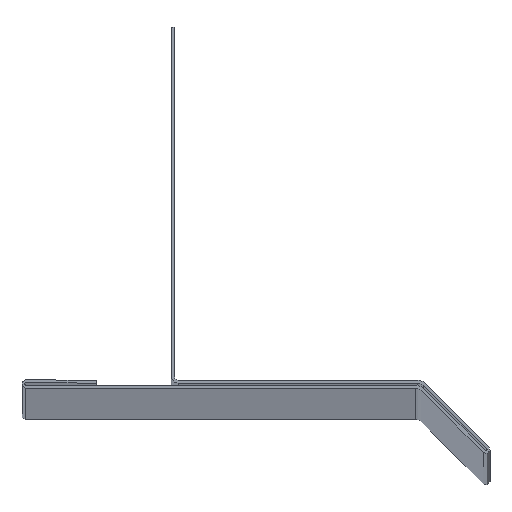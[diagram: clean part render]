
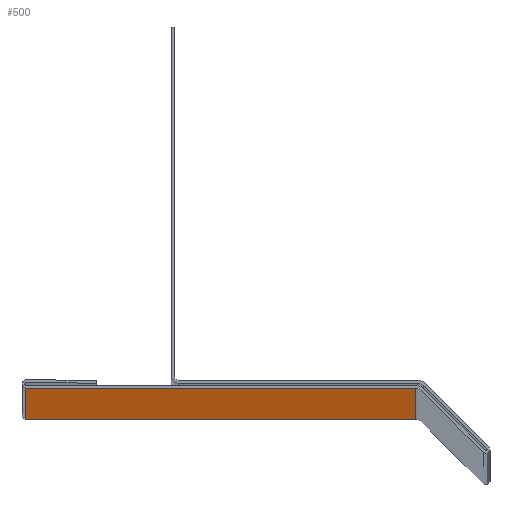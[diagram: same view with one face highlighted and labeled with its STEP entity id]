
A CAD part, top view. The second image highlights one B-rep face of the part: STEP entity #500.
In plain terms, the highlighted planar face has unit normal (0, -1, 0).
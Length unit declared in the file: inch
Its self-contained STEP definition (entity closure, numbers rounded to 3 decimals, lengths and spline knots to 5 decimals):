
#26=PLANE('',#564);
#50=FACE_OUTER_BOUND('',#76,.T.);
#76=EDGE_LOOP('',(#403,#404,#405,#406));
#124=LINE('',#838,#176);
#125=LINE('',#841,#177);
#126=LINE('',#843,#178);
#127=LINE('',#844,#179);
#176=VECTOR('',#688,0.3937);
#177=VECTOR('',#691,0.3937);
#178=VECTOR('',#692,0.3937);
#179=VECTOR('',#693,0.3937);
#245=VERTEX_POINT('',#834);
#246=VERTEX_POINT('',#836);
#247=VERTEX_POINT('',#840);
#248=VERTEX_POINT('',#842);
#312=EDGE_CURVE('',#245,#246,#124,.T.);
#313=EDGE_CURVE('',#245,#247,#125,.T.);
#314=EDGE_CURVE('',#248,#246,#126,.T.);
#315=EDGE_CURVE('',#247,#248,#127,.T.);
#403=ORIENTED_EDGE('',*,*,#313,.F.);
#404=ORIENTED_EDGE('',*,*,#312,.T.);
#405=ORIENTED_EDGE('',*,*,#314,.F.);
#406=ORIENTED_EDGE('',*,*,#315,.F.);
#500=ADVANCED_FACE('',(#50),#26,.T.);
#564=AXIS2_PLACEMENT_3D('',#839,#689,#690);
#688=DIRECTION('',(0.,0.,-1.));
#689=DIRECTION('center_axis',(0.,-1.,
0.));
#690=DIRECTION('ref_axis',(-1.,0.,0.));
#691=DIRECTION('',(1.,0.,0.));
#692=DIRECTION('',(-1.,0.,0.));
#693=DIRECTION('',(0.,0.,-1.));
#834=CARTESIAN_POINT('',(-1.4882,-0.95861,0.));
#836=CARTESIAN_POINT('',(-1.4882,-0.95861,-120.));
#838=CARTESIAN_POINT('',(-1.4882,-0.95861,0.));
#839=CARTESIAN_POINT('Origin',(1.11546,-0.95906,0.));
#840=CARTESIAN_POINT('',(1.11546,-0.95906,0.));
#841=CARTESIAN_POINT('',(-1.4882,-0.95861,0.));
#842=CARTESIAN_POINT('',(1.11546,-0.95906,-120.));
#843=CARTESIAN_POINT('',(-1.4882,-0.95861,-120.));
#844=CARTESIAN_POINT('',(1.11546,-0.95906,0.));
